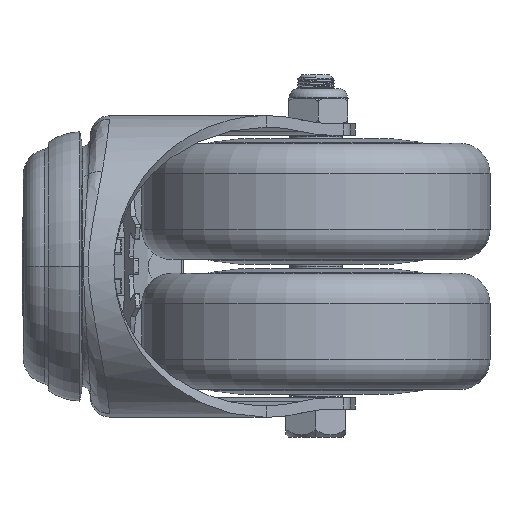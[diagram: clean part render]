
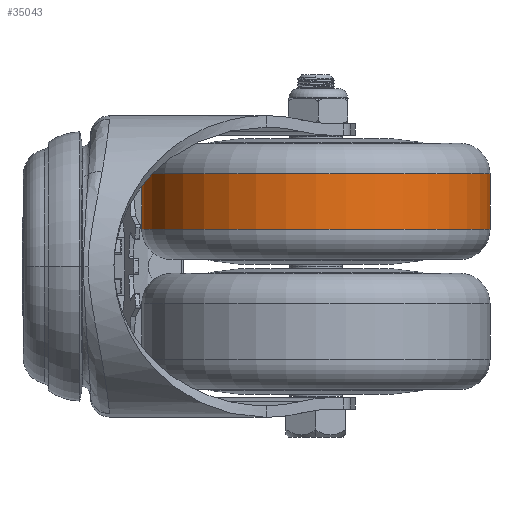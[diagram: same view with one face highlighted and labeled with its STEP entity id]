
A CAD part, left-side view. The second image highlights one B-rep face of the part: STEP entity #35043.
In plain terms, the highlighted cylindrical face has radius 37.5 mm (diameter 75 mm), a partial arc.
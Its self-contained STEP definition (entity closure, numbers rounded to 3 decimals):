
#33875=DIRECTION('',(-1.,0.,0.));
#33876=VECTOR('',#33875,12.);
#33877=CARTESIAN_POINT('',(6.,0.,-37.5));
#33878=LINE('',#33877,#33876);
#33879=DIRECTION('',(-1.,0.,0.));
#33880=VECTOR('',#33879,12.);
#33881=CARTESIAN_POINT('',(6.,0.,37.5));
#33882=LINE('',#33881,#33880);
#33883=CARTESIAN_POINT('',(6.,0.,0.));
#33884=DIRECTION('',(-1.,0.,0.));
#33885=DIRECTION('',(0.,0.,-1.));
#33886=AXIS2_PLACEMENT_3D('',#33883,#33884,#33885);
#33908=CARTESIAN_POINT('',(-6.,0.,0.));
#33909=DIRECTION('',(-1.,0.,0.));
#33910=DIRECTION('',(0.,0.,-1.));
#33911=AXIS2_PLACEMENT_3D('',#33908,#33909,#33910);
#34572=CARTESIAN_POINT('',(6.,0.,-37.5));
#34574=VERTEX_POINT('',#34572);
#34575=CARTESIAN_POINT('',(-6.,0.,-37.5));
#34576=VERTEX_POINT('',#34575);
#34584=CARTESIAN_POINT('',(6.,0.,37.5));
#34586=VERTEX_POINT('',#34584);
#34587=CARTESIAN_POINT('',(-6.,0.,37.5));
#34588=VERTEX_POINT('',#34587);
#35029=CARTESIAN_POINT('',(-13.75,0.,0.));
#35030=DIRECTION('',(1.,0.,0.));
#35031=DIRECTION('',(0.,0.,1.));
#35032=AXIS2_PLACEMENT_3D('',#35029,#35030,#35031);
#35033=CYLINDRICAL_SURFACE('',#35032,37.5);
#35035=ORIENTED_EDGE('',*,*,#35034,.T.);
#35037=ORIENTED_EDGE('',*,*,#35036,.T.);
#35039=ORIENTED_EDGE('',*,*,#35038,.F.);
#35040=ORIENTED_EDGE('',*,*,#35022,.F.);
#35041=EDGE_LOOP('',(#35035,#35037,#35039,#35040));
#35042=FACE_OUTER_BOUND('',#35041,.F.);
#33887=CIRCLE('',#33886,37.5);
#33912=CIRCLE('',#33911,37.5);
#35022=EDGE_CURVE('',#34574,#34586,#33887,.T.);
#35034=EDGE_CURVE('',#34574,#34576,#33878,.T.);
#35036=EDGE_CURVE('',#34576,#34588,#33912,.T.);
#35038=EDGE_CURVE('',#34586,#34588,#33882,.T.);
#35043=ADVANCED_FACE('',(#35042),#35033,.T.);
